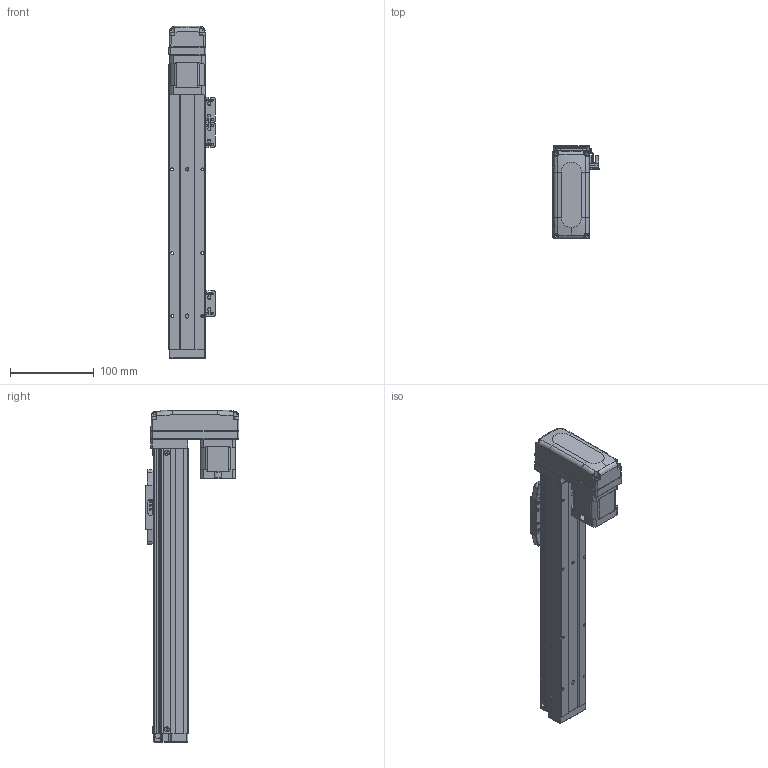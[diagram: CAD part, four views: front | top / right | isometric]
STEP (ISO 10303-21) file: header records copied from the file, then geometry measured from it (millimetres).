
FILE_DESCRIPTION (( 'STEP AP203' ), '1' );
FILE_NAME ('GTH4-200-BM-B42-C4.step', '2023-02-14T00:20:36', ( '微软用户' ), ( '微软中国' ), 'SwSTEP 2.0', 'SolidWorks 2020', '' );
FILE_SCHEMA (( 'CONFIG_CONTROL_DESIGN' ));
Length unit declared in the file: millimetre
Products named in the file (19): BTH50-028; BTH40-004; BTH50-023; BTH40-013; BTH40-001-50_BTH40-001-200; BTH50-024; GBT 70.3-M3℅6; BTH40-003; GBT 70.1-M3℅6; BTH40-027-1; BTH40-006; GBT96.1-2002 3×0.8; BTH50-026; BTH-M3X5X6; BTH40-022; 42CM06; GBT70.1-2000 M3×16; GBT 70.1-M2.5×6; GTH4-200-BM-B42-C4
Assembly tree (47 placements, depth 2):
  GTH4-200-BM-B42-C4
    BTH40-001-50_BTH40-001-200
    BTH40-003
    BTH40-006
    BTH-M3X5X6  x8
    GBT70.1-2000 M3×16  x4
    BTH50-028  x2
    BTH50-023  x3
    BTH50-024  x3
    GBT 70.1-M3℅6  x6
    GBT96.1-2002 3×0.8  x6
    BTH40-022
    GBT 70.1-M2.5×6  x2
    BTH40-004
    BTH40-013
    GBT 70.3-M3℅6  x4
    BTH40-027-1
    BTH50-026
    42CM06
Bounding box: 55.2 x 112 x 396 mm (x, y, z)
Volume: 782645.2 mm3; surface area: 178346.4 mm2
Topology: 56 solids, 56 shells, 3327 faces, 7748 edges, 4630 vertices
Faces by surface type: cone 1508, plane 1076, cylinder 565, torus 124, bspline 42, sphere 12
Entity records: 77594 total; most frequent: CARTESIAN_POINT 13993, DIRECTION 13789, ORIENTED_EDGE 12142, EDGE_CURVE 6071, AXIS2_PLACEMENT_3D 5289, VERTEX_POINT 3617, LINE 3211, VECTOR 3211
